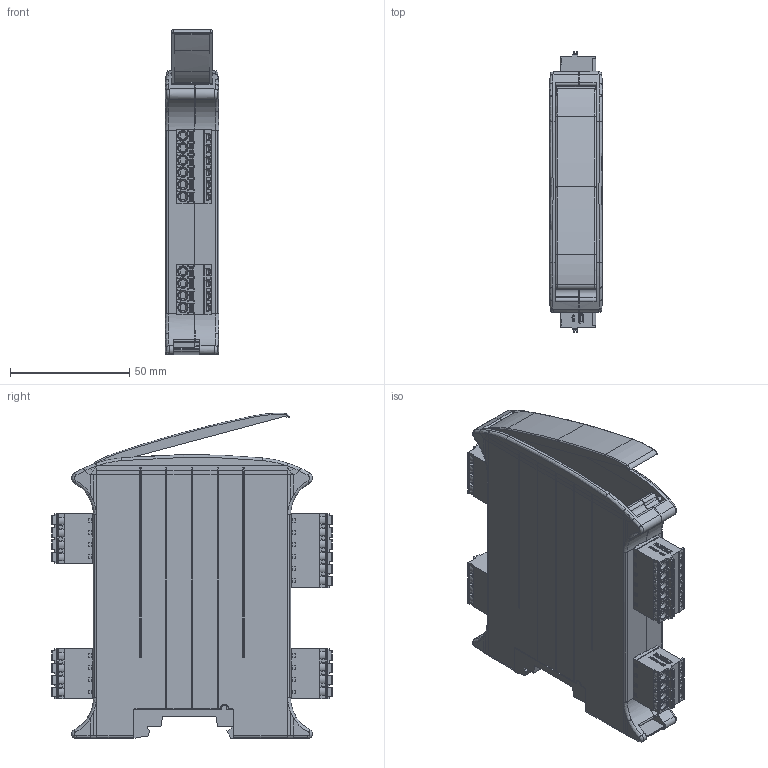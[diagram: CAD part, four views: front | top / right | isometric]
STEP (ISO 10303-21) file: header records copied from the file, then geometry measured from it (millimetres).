
FILE_DESCRIPTION(('CATIA V5 STEP Exchange'),'2;1');
FILE_NAME('C:\Users\Adam\Desktop\DAVIC PRÁCE\LAMBDA_LCP90\LAMBDA_LCP90.stp','2024-03-27T13:25:23+00:00',('none'),('none'),'CATIA Version 5 Release 21 GA (IN-10)','CATIA V5 STEP AP203','none');
FILE_SCHEMA(('CONFIG_CONTROL_DESIGN'));
Products named in the file (4): LAMBDA90; Railbox Standard 22.5 mm BUS_RENDERING; 2023_02_15_13_30_45_0571; 2023_02_15_13_32_11_0745
Assembly tree (32 placements, depth 3):
  LAMBDA90
    Railbox Standard 22.5 mm BUS_RENDERING
      #66
      #1015
      #3338
      #4575
      #15158
    2023_02_15_13_30_45_0571  x3
      #25358
      #25585
      #26057
      #26284
      #26756
      #26983
      #27455
      #27682
      #28154
    2023_02_15_13_32_11_0745
      #63679
      #63906
      #64378
      #64605
      #65077
      #65304
      #65776
      #66003
      #66475
      #66702
      #67174
      #67401
      #67873
Bounding box: 22.5 x 117.64 x 136.48 mm (x, y, z)
Volume: 77270.4 mm3; surface area: 77656.8 mm2
Topology: 45 solids, 48 shells, 5609 faces, 15566 edges, 10256 vertices
Faces by surface type: plane 3985, cylinder 1103, bspline 193, cone 150, torus 99, sphere 71, extrusion 8
Entity records: 110191 total; most frequent: CARTESIAN_POINT 28002, ORIENTED_EDGE 18178, DIRECTION 14477, EDGE_CURVE 9089, VECTOR 6641, LINE 6633, VERTEX_POINT 5972, AXIS2_PLACEMENT_3D 4644
